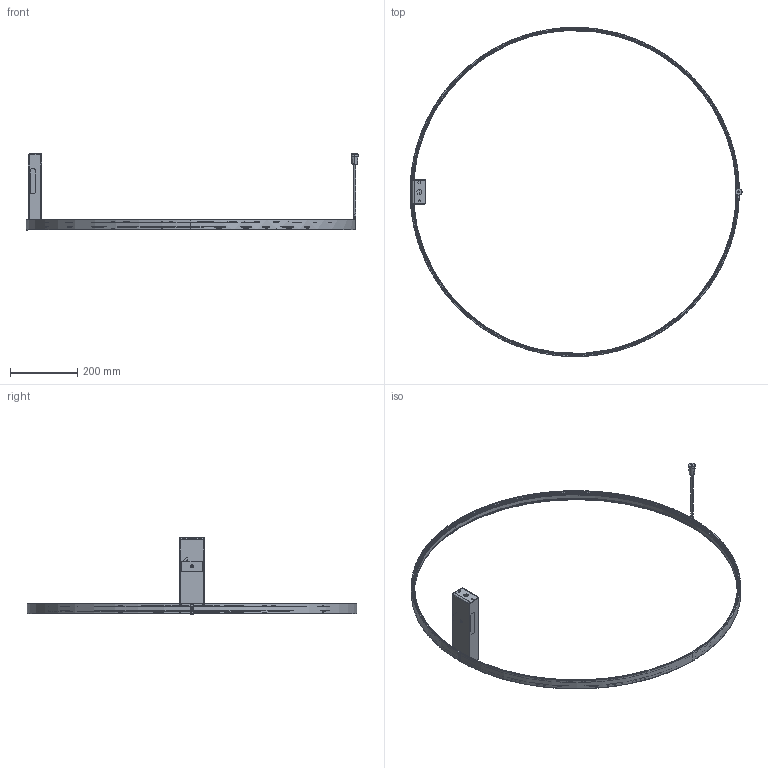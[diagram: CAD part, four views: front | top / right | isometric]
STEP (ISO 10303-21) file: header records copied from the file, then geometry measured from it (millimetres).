
FILE_DESCRIPTION(/* description */ (''),/* implementation_level */ '2;1');
FILE_NAME(/* name */ 'Zero Round P153__.100',/* time_stamp */ '2025-05-29T10:01:15+02:00',/* author */ (''),/* organization */ (''),/* preprocessor_version */ 'ST-DEVELOPER v16.5',/* originating_system */ '',/* authorisation */ '');
FILE_SCHEMA (('AUTOMOTIVE_DESIGN'));
Length unit declared in the file: millimetre
Products named in the file (10): Document; 3300.0302000.00 (profilo curvo Zero Round plafoniera ALL 7,7x30mm D e
st. 977mm)_3306.0302360.00; 3100.0027000.00 (schermo estruso Giplast 09PE79 PC 19x3,8mm per curva
 D int. 959mm)_3101.0027360.98; 3200.0515000.00 (scatola alimentazione con staffa e squadretta ACC 71
,5x42,2mm)_3210.0515022.00; 3200.0512000.00 (staffa scatola alimentazione ACC 69x74x18,2mm sp 1,2
)_3209.0512000.00; 3200.0510000.00 (scatola alimentazione ACC 71,5x42,2mm sp 1,2)_3209.0
510022.00; 3200.0513000.00 (squadretta scatola alimentazione ACC 50x22,6mm sp 2)
_3209.0513002.00; 3200.0508000.00 (staffa di fissaggio a plafone ACC 68,9x39,2mm sp 2,5
)_3209.0508020.00; 5401.0031000.00 (molla in nastro sagomata ACC INOX 10x31x5mm sp 0,4)_
5401.0031000.00; socket countersunk head screw_iso_ISO 10642 - M4 x 8 - 8N
Assembly tree (9 placements, depth 3):
  Document
    3300.0302000.00 (profilo curvo Zero Round plafoniera ALL 7,7x30mm D e
st. 977mm)_3306.0302360.00
    3100.0027000.00 (schermo estruso Giplast 09PE79 PC 19x3,8mm per curva
 D int. 959mm)_3101.0027360.98
    3200.0515000.00 (scatola alimentazione con staffa e squadretta ACC 71
,5x42,2mm)_3210.0515022.00
      3200.0512000.00 (staffa scatola alimentazione ACC 69x74x18,2mm sp 1,2
)_3209.0512000.00
      3200.0510000.00 (scatola alimentazione ACC 71,5x42,2mm sp 1,2)_3209.0
510022.00
      3200.0513000.00 (squadretta scatola alimentazione ACC 50x22,6mm sp 2)
_3209.0513002.00
    3200.0508000.00 (staffa di fissaggio a plafone ACC 68,9x39,2mm sp 2,5
)_3209.0508020.00
    5401.0031000.00 (molla in nastro sagomata ACC INOX 10x31x5mm sp 0,4)_
5401.0031000.00
    socket countersunk head screw_iso_ISO 10642 - M4 x 8 - 8N
Bounding box: 985.39 x 977 x 225.95 mm (x, y, z)
Volume: 615336.5 mm3; surface area: 538739.9 mm2
Topology: 10 solids, 10 shells, 482 faces, 1180 edges, 714 vertices
Faces by surface type: bspline 298, plane 184
Entity records: 22737 total; most frequent: CARTESIAN_POINT 15529, ORIENTED_EDGE 2348, EDGE_CURVE 1174, VERTEX_POINT 714, B_SPLINE_CURVE_WITH_KNOTS 613, EDGE_LOOP 506, ADVANCED_FACE 482, FACE_OUTER_BOUND 482
